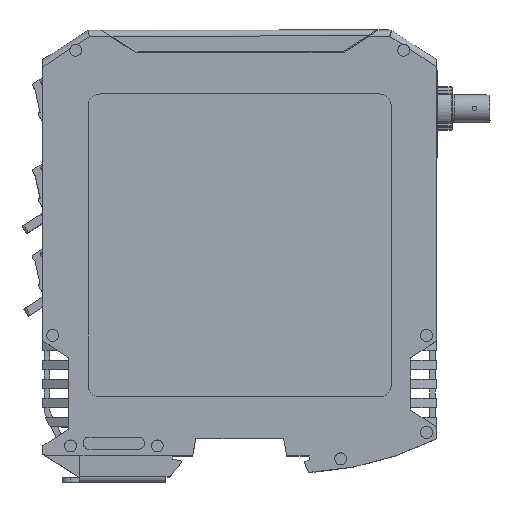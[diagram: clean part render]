
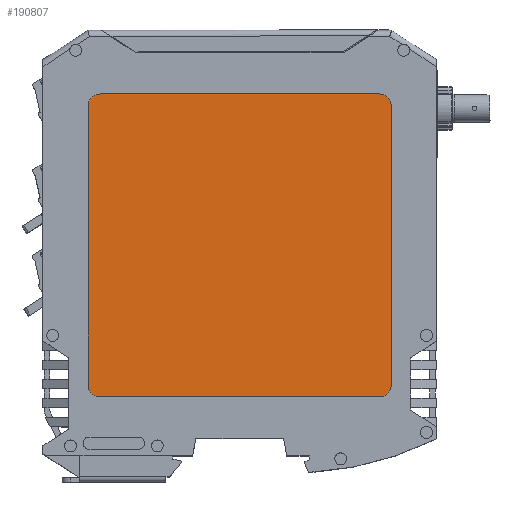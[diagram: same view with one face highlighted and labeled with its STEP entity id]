
A CAD part, top view. The second image highlights one B-rep face of the part: STEP entity #190807.
In plain terms, the highlighted planar face has unit normal (0, 0, 1).
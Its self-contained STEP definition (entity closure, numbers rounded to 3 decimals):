
#10287 = EDGE_CURVE ( 'NONE', #118588, #196124, #61190, .T. ) ;
#10555 = EDGE_CURVE ( 'NONE', #43119, #135789, #136035, .T. ) ;
#12910 = DIRECTION ( 'NONE',  ( 1., 0., 0. ) ) ;
#18358 = ORIENTED_EDGE ( 'NONE', *, *, #101535, .T. ) ;
#19472 = LINE ( 'NONE', #186920, #142157 ) ;
#29784 = ORIENTED_EDGE ( 'NONE', *, *, #95957, .F. ) ;
#31487 = EDGE_CURVE ( 'NONE', #159261, #59762, #193793, .T. ) ;
#42172 = DIRECTION ( 'NONE',  ( -1., 0., 0. ) ) ;
#42212 = DIRECTION ( 'NONE',  ( 0., 0., -1. ) ) ;
#42405 = AXIS2_PLACEMENT_3D ( 'NONE', #91053, #203123, #107177 ) ;
#42462 = CARTESIAN_POINT ( 'NONE',  ( 35.1, 25.321, 14.1 ) ) ;
#43119 = VERTEX_POINT ( 'NONE', #188948 ) ;
#48906 = LINE ( 'NONE', #188429, #86318 ) ;
#50700 = CARTESIAN_POINT ( 'NONE',  ( -38.1, 25.321, 14.1 ) ) ;
#55236 = CARTESIAN_POINT ( 'NONE',  ( -35.1, 22.321, 14.1 ) ) ;
#59426 = CIRCLE ( 'NONE', #42405, 3. ) ;
#59762 = VERTEX_POINT ( 'NONE', #61229 ) ;
#61190 = CIRCLE ( 'NONE', #185178, 3. ) ;
#61229 = CARTESIAN_POINT ( 'NONE',  ( 35.1, 22.321, 14.1 ) ) ;
#61353 = AXIS2_PLACEMENT_3D ( 'NONE', #204635, #108726, #12910 ) ;
#64533 = ORIENTED_EDGE ( 'NONE', *, *, #10287, .F. ) ;
#69375 = EDGE_CURVE ( 'NONE', #110295, #59762, #138002, .T. ) ;
#80579 = AXIS2_PLACEMENT_3D ( 'NONE', #83165, #83136, #82878 ) ;
#82456 = DIRECTION ( 'NONE',  ( 1., 0., 0. ) ) ;
#82878 = DIRECTION ( 'NONE',  ( -1., 0., 0. ) ) ;
#83136 = DIRECTION ( 'NONE',  ( 0., 0., -1. ) ) ;
#83165 = CARTESIAN_POINT ( 'NONE',  ( 35.1, 95.521, 14.1 ) ) ;
#86191 = CARTESIAN_POINT ( 'NONE',  ( -38.1, 95.521, 14.1 ) ) ;
#86318 = VECTOR ( 'NONE', #172327, 1000. ) ;
#87261 = ORIENTED_EDGE ( 'NONE', *, *, #109201, .T. ) ;
#88946 = FACE_OUTER_BOUND ( 'NONE', #142837, .T. ) ;
#90318 = VECTOR ( 'NONE', #82456, 1000. ) ;
#90684 = EDGE_CURVE ( 'NONE', #159261, #135789, #48906, .T. ) ;
#90959 = DIRECTION ( 'NONE',  ( -1., 0., 0. ) ) ;
#91053 = CARTESIAN_POINT ( 'NONE',  ( -35.1, 25.321, 14.1 ) ) ;
#94461 = VECTOR ( 'NONE', #153632, 1000. ) ;
#95957 = EDGE_CURVE ( 'NONE', #110295, #106017, #59426, .T. ) ;
#99439 = LINE ( 'NONE', #137557, #94461 ) ;
#101535 = EDGE_CURVE ( 'NONE', #43119, #196124, #19472, .T. ) ;
#106017 = VERTEX_POINT ( 'NONE', #50700 ) ;
#106844 = DIRECTION ( 'NONE',  ( -1., 0., 0. ) ) ;
#106879 = DIRECTION ( 'NONE',  ( 0., 0., -1. ) ) ;
#107111 = CARTESIAN_POINT ( 'NONE',  ( -35.1, 95.521, 14.1 ) ) ;
#107177 = DIRECTION ( 'NONE',  ( -1., 0., 0. ) ) ;
#107320 = AXIS2_PLACEMENT_3D ( 'NONE', #42462, #42212, #42172 ) ;
#108726 = DIRECTION ( 'NONE',  ( 0., 0., 1. ) ) ;
#109201 = EDGE_CURVE ( 'NONE', #118588, #106017, #99439, .T. ) ;
#110295 = VERTEX_POINT ( 'NONE', #55236 ) ;
#118588 = VERTEX_POINT ( 'NONE', #86191 ) ;
#126411 = CARTESIAN_POINT ( 'NONE',  ( -35.1, 98.521, 14.1 ) ) ;
#133357 = ORIENTED_EDGE ( 'NONE', *, *, #69375, .T. ) ;
#135789 = VERTEX_POINT ( 'NONE', #173520 ) ;
#136035 = CIRCLE ( 'NONE', #80579, 3. ) ;
#137557 = CARTESIAN_POINT ( 'NONE',  ( -38.1, 95.521, 14.1 ) ) ;
#137925 = ORIENTED_EDGE ( 'NONE', *, *, #90684, .T. ) ;
#138002 = LINE ( 'NONE', #194578, #90318 ) ;
#140247 = PLANE ( 'NONE',  #61353 ) ;
#141883 = ORIENTED_EDGE ( 'NONE', *, *, #10555, .F. ) ;
#142157 = VECTOR ( 'NONE', #90959, 1000. ) ;
#142837 = EDGE_LOOP ( 'NONE', ( #195962, #137925, #141883, #18358, #64533, #87261, #29784, #133357 ) ) ;
#153632 = DIRECTION ( 'NONE',  ( 0., -1., 0. ) ) ;
#159261 = VERTEX_POINT ( 'NONE', #188837 ) ;
#172327 = DIRECTION ( 'NONE',  ( 0., 1., 0. ) ) ;
#173520 = CARTESIAN_POINT ( 'NONE',  ( 38.1, 95.521, 14.1 ) ) ;
#185178 = AXIS2_PLACEMENT_3D ( 'NONE', #107111, #106879, #106844 ) ;
#186920 = CARTESIAN_POINT ( 'NONE',  ( -35.1, 98.521, 14.1 ) ) ;
#188429 = CARTESIAN_POINT ( 'NONE',  ( 38.1, 95.521, 14.1 ) ) ;
#188837 = CARTESIAN_POINT ( 'NONE',  ( 38.1, 25.321, 14.1 ) ) ;
#188948 = CARTESIAN_POINT ( 'NONE',  ( 35.1, 98.521, 14.1 ) ) ;
#190807 = ADVANCED_FACE ( 'NONE', ( #88946 ), #140247, .T. ) ;
#193793 = CIRCLE ( 'NONE', #107320, 3. ) ;
#194578 = CARTESIAN_POINT ( 'NONE',  ( -35.1, 22.321, 14.1 ) ) ;
#195962 = ORIENTED_EDGE ( 'NONE', *, *, #31487, .F. ) ;
#196124 = VERTEX_POINT ( 'NONE', #126411 ) ;
#203123 = DIRECTION ( 'NONE',  ( 0., 0., -1. ) ) ;
#204635 = CARTESIAN_POINT ( 'NONE',  ( -35.1, 95.521, 14.1 ) ) ;
